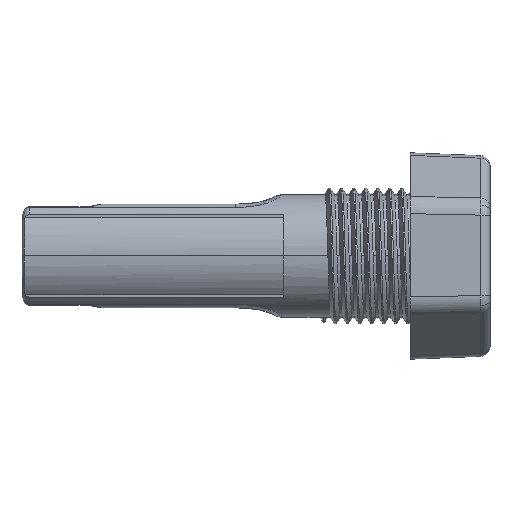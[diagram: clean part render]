
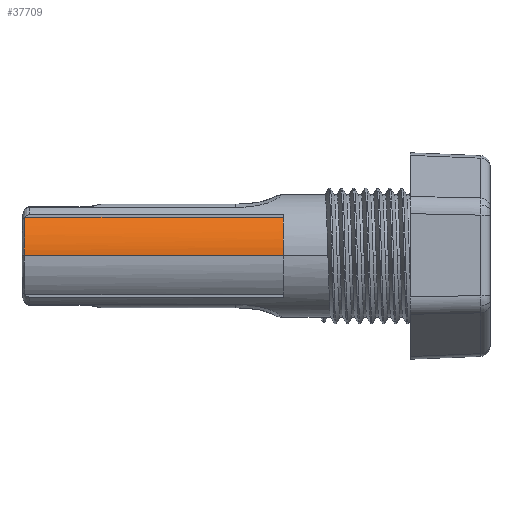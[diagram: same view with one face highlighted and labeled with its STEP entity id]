
A CAD part, top view. The second image highlights one B-rep face of the part: STEP entity #37709.
In plain terms, the highlighted cylindrical face has radius 9 mm (diameter 18 mm), a partial arc.
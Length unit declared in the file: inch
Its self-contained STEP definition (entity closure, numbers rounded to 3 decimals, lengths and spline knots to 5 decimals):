
#558 = LINE ( 'NONE', #11936, #57101 ) ;
#1647 = CIRCLE ( 'NONE', #45347, 0.35433 ) ;
#3448 = CARTESIAN_POINT ( 'NONE',  ( -2.51385, 0.05197, 0.35065 ) ) ;
#3841 = CARTESIAN_POINT ( 'NONE',  ( -2.51451, 0.01044, 0.35433 ) ) ;
#9191 = DIRECTION ( 'NONE',  ( -1., 0., 0. ) ) ;
#9336 = CARTESIAN_POINT ( 'NONE',  ( -2.51212, 0.15987, 0.31639 ) ) ;
#11607 = ORIENTED_EDGE ( 'NONE', *, *, #37312, .T. ) ;
#11936 = CARTESIAN_POINT ( 'NONE',  ( -0.97919, 0., 0.35433 ) ) ;
#14029 = CARTESIAN_POINT ( 'NONE',  ( -2.51242, 0.14107, 0.3252 ) ) ;
#16631 = CARTESIAN_POINT ( 'NONE',  ( -2.51101, 0.229, 0.27039 ) ) ;
#16705 = B_SPLINE_CURVE_WITH_KNOTS ( 'NONE', 3,
 ( #39023, #73367, #32027, #62805, #9336, #14029, #61664, #35085, #76404, #3448, #22945, #33599, #3841, #28058 ),
 .UNSPECIFIED., .F., .F.,
 ( 4, 2, 2, 2, 2, 2, 4 ),
 ( 0., 0.00158, 0.00237, 0.00316, 0.00474, 0.00553, 0.00633 ),
 .UNSPECIFIED. ) ;
#20378 = DIRECTION ( 'NONE',  ( 1., 0., 0. ) ) ;
#21152 = CARTESIAN_POINT ( 'NONE',  ( -0.97919, 0., 0. ) ) ;
#21275 = CARTESIAN_POINT ( 'NONE',  ( -0.97919, 0.229, 0.27039 ) ) ;
#22945 = CARTESIAN_POINT ( 'NONE',  ( -2.51401, 0.04159, 0.35204 ) ) ;
#23826 = VERTEX_POINT ( 'NONE', #16631 ) ;
#24194 = VERTEX_POINT ( 'NONE', #49277 ) ;
#26175 = FACE_OUTER_BOUND ( 'NONE', #44513, .T. ) ;
#28058 = CARTESIAN_POINT ( 'NONE',  ( -2.51468, 0., 0.35433 ) ) ;
#28400 = AXIS2_PLACEMENT_3D ( 'NONE', #73374, #67882, #74129 ) ;
#32027 = CARTESIAN_POINT ( 'NONE',  ( -2.51154, 0.1961, 0.29585 ) ) ;
#33599 = CARTESIAN_POINT ( 'NONE',  ( -2.51435, 0.02084, 0.35387 ) ) ;
#34269 = EDGE_CURVE ( 'NONE', #24194, #73447, #558, .T. ) ;
#35085 = CARTESIAN_POINT ( 'NONE',  ( -2.51304, 0.10252, 0.3398 ) ) ;
#37196 = VECTOR ( 'NONE', #9191, 39.37008 ) ;
#37312 = EDGE_CURVE ( 'NONE', #23826, #73447, #16705, .T. ) ;
#37709 = ADVANCED_FACE ( 'NONE', ( #26175 ), #49585, .T. ) ;
#38880 = CARTESIAN_POINT ( 'NONE',  ( -0.97919, 0.229, 0.27039 ) ) ;
#39023 = CARTESIAN_POINT ( 'NONE',  ( -2.51101, 0.229, 0.27039 ) ) ;
#39865 = EDGE_CURVE ( 'NONE', #48888, #23826, #45475, .T. ) ;
#43719 = CARTESIAN_POINT ( 'NONE',  ( -2.51468, 0., 0.35433 ) ) ;
#44155 = EDGE_CURVE ( 'NONE', #48888, #24194, #1647, .T. ) ;
#44513 = EDGE_LOOP ( 'NONE', ( #50902, #50886, #66115, #11607 ) ) ;
#45347 = AXIS2_PLACEMENT_3D ( 'NONE', #21152, #20378, #45715 ) ;
#45475 = LINE ( 'NONE', #38880, #37196 ) ;
#45715 = DIRECTION ( 'NONE',  ( 0., 0., -1. ) ) ;
#48888 = VERTEX_POINT ( 'NONE', #21275 ) ;
#49277 = CARTESIAN_POINT ( 'NONE',  ( -0.97919, 0., 0.35433 ) ) ;
#49585 = CYLINDRICAL_SURFACE ( 'NONE', #28400, 0.35433 ) ;
#50886 = ORIENTED_EDGE ( 'NONE', *, *, #44155, .F. ) ;
#50902 = ORIENTED_EDGE ( 'NONE', *, *, #34269, .F. ) ;
#57101 = VECTOR ( 'NONE', #58816, 39.37008 ) ;
#58816 = DIRECTION ( 'NONE',  ( -1., 0., 0. ) ) ;
#61664 = CARTESIAN_POINT ( 'NONE',  ( -2.51257, 0.13154, 0.32917 ) ) ;
#62805 = CARTESIAN_POINT ( 'NONE',  ( -2.51197, 0.16914, 0.31153 ) ) ;
#66115 = ORIENTED_EDGE ( 'NONE', *, *, #39865, .T. ) ;
#67882 = DIRECTION ( 'NONE',  ( -1., 0., 0. ) ) ;
#73367 = CARTESIAN_POINT ( 'NONE',  ( -2.51127, 0.21306, 0.28388 ) ) ;
#73374 = CARTESIAN_POINT ( 'NONE',  ( -0.97919, 0., 0. ) ) ;
#73447 = VERTEX_POINT ( 'NONE', #43719 ) ;
#74129 = DIRECTION ( 'NONE',  ( 0., 0., 1. ) ) ;
#76404 = CARTESIAN_POINT ( 'NONE',  ( -2.51336, 0.08263, 0.34519 ) ) ;
